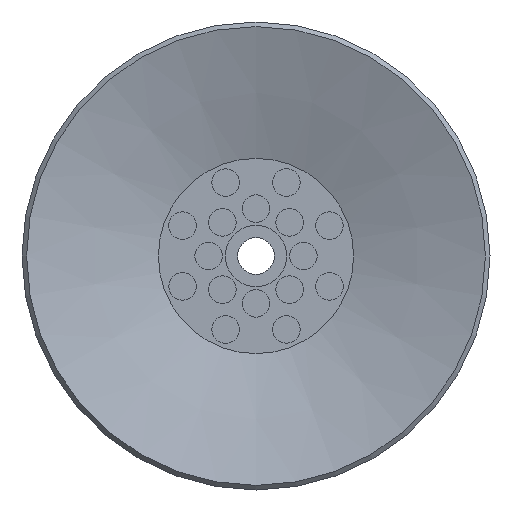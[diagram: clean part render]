
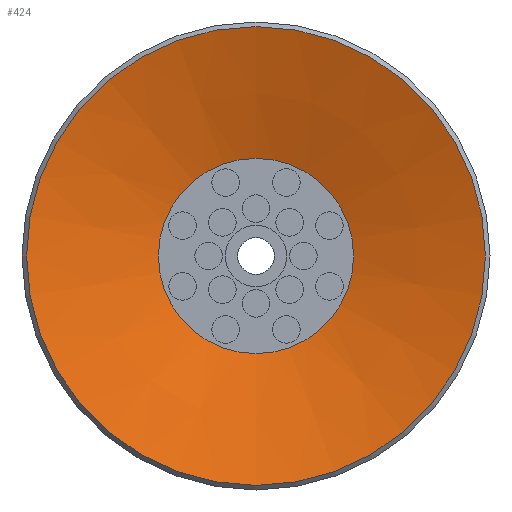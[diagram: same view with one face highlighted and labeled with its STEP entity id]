
A CAD part, front view. The second image highlights one B-rep face of the part: STEP entity #424.
In plain terms, the highlighted conical face has half-angle 72 degrees and reference radius 7.5 mm.
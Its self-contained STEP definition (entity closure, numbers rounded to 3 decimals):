
#424=ADVANCED_FACE('',(#871,#872),#873,.F.);
#871=FACE_BOUND('',#1455,.T.);
#872=FACE_OUTER_BOUND('',#1456,.T.);
#873=CONICAL_SURFACE('',#1457,7.5,1.257);
#1455=EDGE_LOOP('',(#2014));
#1456=EDGE_LOOP('',(#2015));
#1457=AXIS2_PLACEMENT_3D('',#2016,#2017,#2018);
#2014=ORIENTED_EDGE('',*,*,#2340,.T.);
#2015=ORIENTED_EDGE('',*,*,#2342,.F.);
#2016=CARTESIAN_POINT('',(0.0,0.,0.));
#2017=DIRECTION('',(0.0,0.,-1.0));
#2018=DIRECTION('',(0.0,1.0,0.));
#2340=EDGE_CURVE('',#2497,#2497,#2498,.T.);
#2342=EDGE_CURVE('',#2500,#2500,#2501,.T.);
#2497=VERTEX_POINT('',#2685);
#2498=CIRCLE('',#2686,3.191);
#2500=VERTEX_POINT('',#2688);
#2501=CIRCLE('',#2689,7.5);
#2685=CARTESIAN_POINT('',(0.0,-3.191,1.4));
#2686=AXIS2_PLACEMENT_3D('',#2851,#2852,#2853);
#2688=CARTESIAN_POINT('',(0.0,-7.5,0.));
#2689=AXIS2_PLACEMENT_3D('',#2854,#2855,#2856);
#2851=CARTESIAN_POINT('',(0.0,0.,1.4));
#2852=DIRECTION('',(0.0,0.,1.0));
#2853=DIRECTION('',(0.0,-1.0,0.));
#2854=CARTESIAN_POINT('',(0.0,0.,0.));
#2855=DIRECTION('',(0.0,0.,1.0));
#2856=DIRECTION('',(0.0,-1.0,0.));
